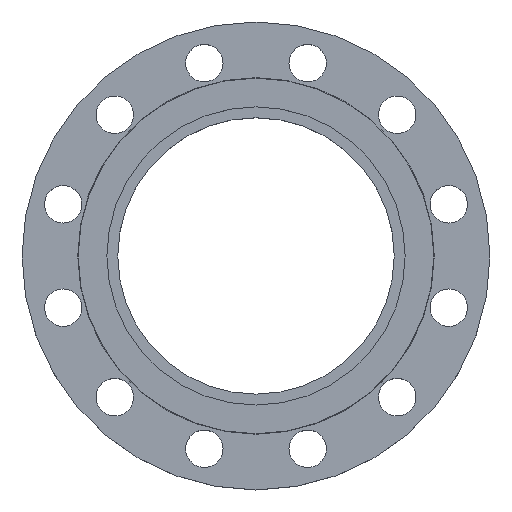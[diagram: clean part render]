
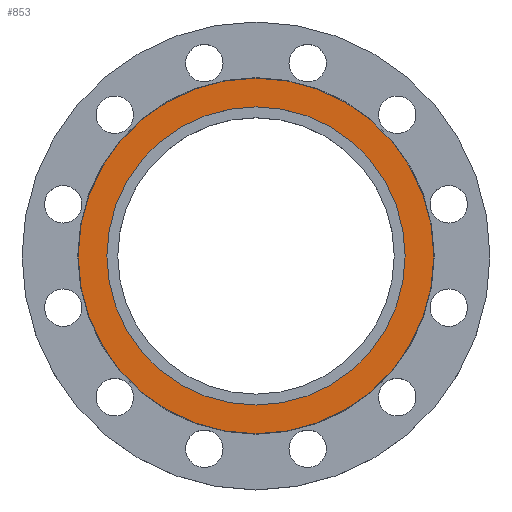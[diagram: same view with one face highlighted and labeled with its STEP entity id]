
A CAD part, top view. The second image highlights one B-rep face of the part: STEP entity #853.
In plain terms, the highlighted planar face has unit normal (0, 0, 1).
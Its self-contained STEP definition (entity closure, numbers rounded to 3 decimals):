
#28 = DIRECTION ( 'NONE',  ( -1., 0., 0. ) ) ;
#29 = DIRECTION ( 'NONE',  ( 0., 0., -1. ) ) ;
#30 = CARTESIAN_POINT ( 'NONE',  ( 0., 0., 0. ) ) ;
#86 = AXIS2_PLACEMENT_3D ( 'NONE', #140, #139, #138 ) ;
#98 = CIRCLE ( 'NONE', #86, 142.5 ) ;
#120 = CARTESIAN_POINT ( 'NONE',  ( -119.5, 0., 0. ) ) ;
#138 = DIRECTION ( 'NONE',  ( -1., 0., 0. ) ) ;
#139 = DIRECTION ( 'NONE',  ( 0., 0., -1. ) ) ;
#140 = CARTESIAN_POINT ( 'NONE',  ( 0., 0., 0. ) ) ;
#214 = AXIS2_PLACEMENT_3D ( 'NONE', #266, #261, #262 ) ;
#216 = AXIS2_PLACEMENT_3D ( 'NONE', #312, #311, #309 ) ;
#261 = DIRECTION ( 'NONE',  ( 0., 0., 1. ) ) ;
#262 = DIRECTION ( 'NONE',  ( 1., 0., 0. ) ) ;
#266 = CARTESIAN_POINT ( 'NONE',  ( 0., 0., 0. ) ) ;
#267 = PLANE ( 'NONE',  #214 ) ;
#268 = FACE_BOUND ( 'NONE', #1253, .T. ) ;
#272 = FACE_OUTER_BOUND ( 'NONE', #1276, .T. ) ;
#309 = DIRECTION ( 'NONE',  ( -1., 0., 0. ) ) ;
#311 = DIRECTION ( 'NONE',  ( 0., 0., -1. ) ) ;
#312 = CARTESIAN_POINT ( 'NONE',  ( 0., 0., 0. ) ) ;
#388 = CARTESIAN_POINT ( 'NONE',  ( 119.5, 0., 0. ) ) ;
#446 = CARTESIAN_POINT ( 'NONE',  ( 142.5, 0., 0. ) ) ;
#520 = DIRECTION ( 'NONE',  ( 0., 0., -1. ) ) ;
#626 = VERTEX_POINT ( 'NONE', #446 ) ;
#753 = CIRCLE ( 'NONE', #216, 119.5 ) ;
#815 = EDGE_CURVE ( 'NONE', #1250, #1067, #753, .T. ) ;
#823 = CIRCLE ( 'NONE', #825, 142.5 ) ;
#825 = AXIS2_PLACEMENT_3D ( 'NONE', #30, #29, #28 ) ;
#853 = ADVANCED_FACE ( 'NONE', ( #272, #268 ), #267, .T. ) ;
#897 = ORIENTED_EDGE ( 'NONE', *, *, #1125, .F. ) ;
#899 = ORIENTED_EDGE ( 'NONE', *, *, #1062, .F. ) ;
#900 = ORIENTED_EDGE ( 'NONE', *, *, #1191, .T. ) ;
#901 = ORIENTED_EDGE ( 'NONE', *, *, #815, .T. ) ;
#1004 = CIRCLE ( 'NONE', #1015, 119.5 ) ;
#1015 = AXIS2_PLACEMENT_3D ( 'NONE', #1285, #520, #1056 ) ;
#1056 = DIRECTION ( 'NONE',  ( -1., 0., 0. ) ) ;
#1062 = EDGE_CURVE ( 'NONE', #626, #1313, #98, .T. ) ;
#1067 = VERTEX_POINT ( 'NONE', #120 ) ;
#1125 = EDGE_CURVE ( 'NONE', #1313, #626, #823, .T. ) ;
#1191 = EDGE_CURVE ( 'NONE', #1067, #1250, #1004, .T. ) ;
#1193 = CARTESIAN_POINT ( 'NONE',  ( -142.5, 0., 0. ) ) ;
#1250 = VERTEX_POINT ( 'NONE', #388 ) ;
#1253 = EDGE_LOOP ( 'NONE', ( #900, #901 ) ) ;
#1276 = EDGE_LOOP ( 'NONE', ( #897, #899 ) ) ;
#1285 = CARTESIAN_POINT ( 'NONE',  ( 0., 0., 0. ) ) ;
#1313 = VERTEX_POINT ( 'NONE', #1193 ) ;
